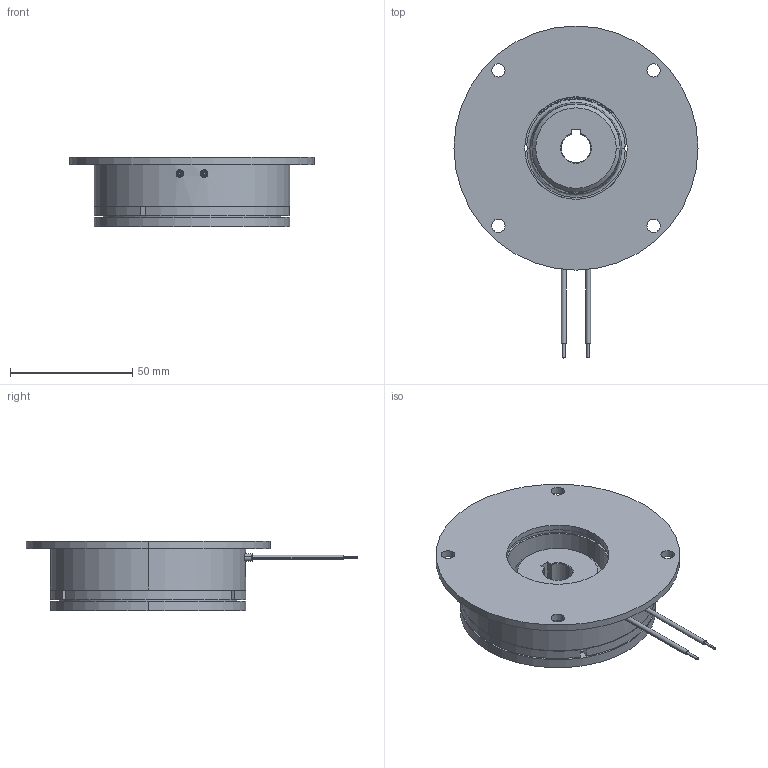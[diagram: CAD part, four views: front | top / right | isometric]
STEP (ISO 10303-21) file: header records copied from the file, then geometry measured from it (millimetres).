
FILE_DESCRIPTION (( 'STEP AP214' ), '1' );
FILE_NAME ('dr_bk_0702-120_mu.STEP', '2021-11-10T10:10:39', ( '' ), ( '' ), 'SwSTEP 2.0', 'SolidWorks 2019', '' );
FILE_SCHEMA (( 'AUTOMOTIVE_DESIGN' ));
Length unit declared in the file: millimetre
Products named in the file (10): 10068806_000_Einbaul„nge 2,75; 10068804_000; 10068806_000_Einbaul„nge 3,05mm; 10068695_000; 10068803_000; 10068802_000; 10068808_000; dr_bk_0702-120_mu; 10068807_000; 10068805_000
Assembly tree (18 placements, depth 4):
  dr_bk_0702-120_mu
    10068695_000
    10068803_000
      10068808_000
      10068802_000
        10068804_000
        10068807_000
        10068805_000  x3
        10068806_000_Einbaul„nge 2,75  x3
      10068806_000_Einbaul„nge 3,05mm  x3
      10068805_000  x3
Bounding box: 100 x 136 x 28.5 mm (x, y, z)
Volume: 127437 mm3; surface area: 50203.5 mm2
Topology: 18 solids, 18 shells, 556 faces, 1405 edges, 896 vertices
Faces by surface type: cylinder 165, plane 159, bspline 111, cone 78, torus 31, sphere 12
Entity records: 22401 total; most frequent: CARTESIAN_POINT 10594, ORIENTED_EDGE 2362, DIRECTION 1917, EDGE_CURVE 1181, VERTEX_POINT 768, AXIS2_PLACEMENT_3D 711, EDGE_LOOP 529, LINE 495
